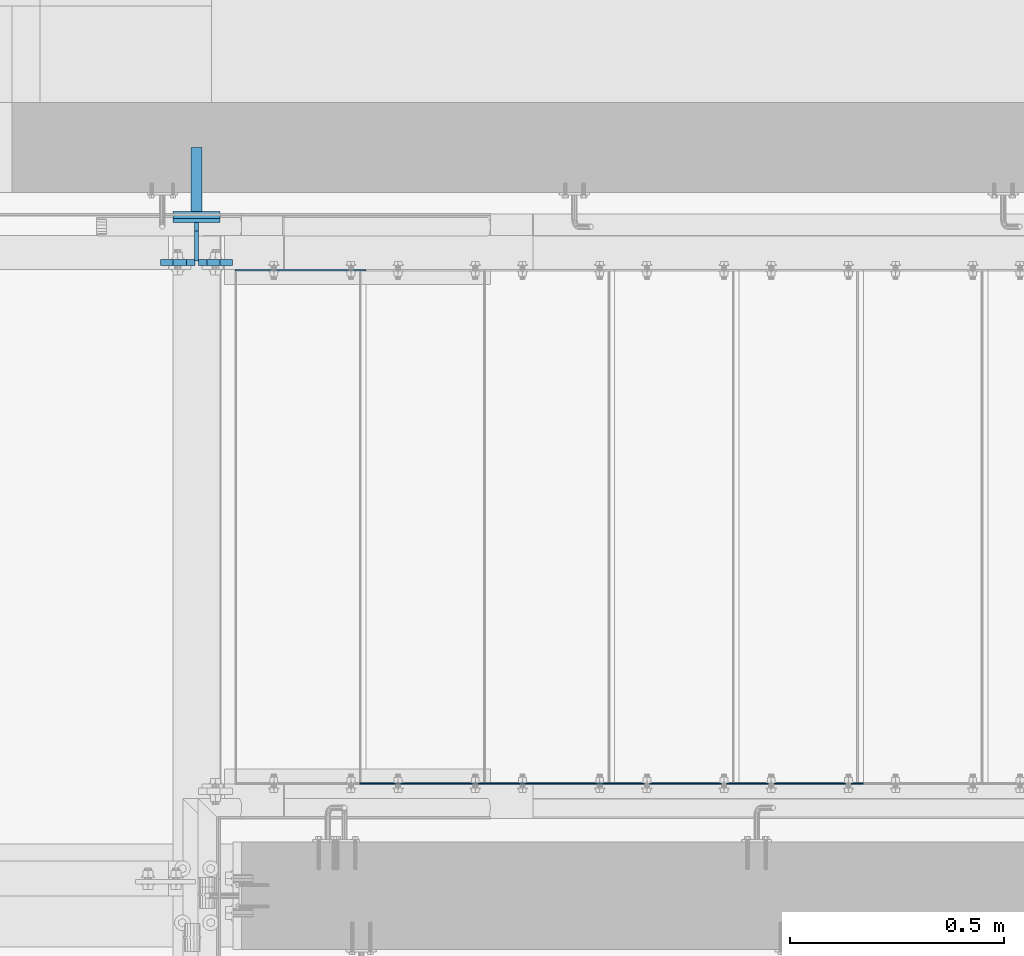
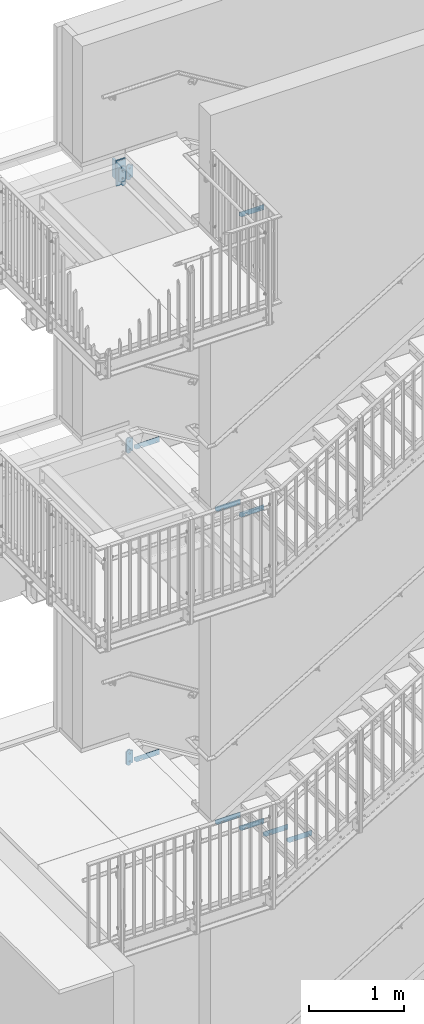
# One storey, part 57 of 410: 16 plates, 45 openings.
"""IFC2X3 building model written with IfcOpenShell, lengths in millimetres."""

import ifcopenshell
import ifcopenshell.guid

model = None  # the IFC model being written
_history = None  # IfcOwnerHistory: only IFC2X3 demands one
_inside = {}  # id of a spatial element -> (the spatial element, [elements in it])
_under = {}  # id of a project, library or spatial element -> (it, [spatial elements below it])
_declared = {}  # id of a project -> (the project, [libraries it declares])
_typed = {}  # id of a type object -> (the type object, [elements of that type])
_made_of = {}  # id of a material, layer set ... -> (it, [elements and type objects made of it])


def new_model(schema):
    """Start an empty IFC model of exactly this schema.

    Asked for "IFC4X3", IfcOpenShell would pick the latest addendum, in which some entities
    have other attributes; the version numbers below select the first issue.
    IFC2X3 requires an IfcOwnerHistory on every rooted entity: one is made here for all.
    """
    global model, _history
    if schema == "IFC4X3":
        model = ifcopenshell.file(schema_version=(4, 3, 0, 0))
    else:
        model = ifcopenshell.file(schema=schema)
    _inside.clear()
    _under.clear()
    _declared.clear()
    _typed.clear()
    _made_of.clear()
    _history = None
    if model.schema == "IFC2X3":
        org = make("IfcOrganization", Name="unknown")
        user = make(
            "IfcPersonAndOrganization",
            ThePerson=make("IfcPerson", FamilyName="unknown"),
            TheOrganization=org,
        )
        app = make(
            "IfcApplication",
            ApplicationDeveloper=org,
            Version="unknown",
            ApplicationFullName="unknown",
            ApplicationIdentifier="unknown",
        )
        _history = make(
            "IfcOwnerHistory",
            OwningUser=user,
            OwningApplication=app,
            ChangeAction="ADDED",
            CreationDate=0,
        )
    return model


def make(cls, **values):
    """One entity of the class cls with the attributes given. An attribute that is None is left unset."""
    return model.create_entity(
        cls, **{name: value for name, value in values.items() if value is not None}
    )


def entity(cls, *values):
    """Any entity or typed value of the class cls, its attributes in the order of the schema. None: left unset."""
    e = model.create_entity(cls)
    for i, value in enumerate(values):
        if value is not None:
            e[i] = value
    return e


def rooted(cls, **values):
    """An entity with a GlobalId (a new one), such as an element, a storey or a relation."""
    return make(cls, GlobalId=ifcopenshell.guid.new(), OwnerHistory=_history, **values)


def si_unit(unit_type, name, prefix=None):
    """IfcSIUnit, for example si_unit("LENGTHUNIT", "METRE", prefix="MILLI")."""
    return make("IfcSIUnit", UnitType=unit_type, Prefix=prefix, Name=name)


def converted_unit(unit_type, name, factor, base, dimensions=None, offset=None):
    """IfcConversionBasedUnit, such as the inch: factor (a typed value) times the base unit."""
    return make(
        "IfcConversionBasedUnit"
        if offset is None
        else "IfcConversionBasedUnitWithOffset",
        ConversionOffset=offset,
        Dimensions=None
        if dimensions is None
        else entity("IfcDimensionalExponents", *dimensions),
        UnitType=unit_type,
        Name=name,
        ConversionFactor=make(
            "IfcMeasureWithUnit", ValueComponent=factor, UnitComponent=base
        ),
    )


def assignment(units):
    """IfcUnitAssignment: the units of a project."""
    return None if units is None else make("IfcUnitAssignment", Units=units)


def point(xyz):
    """IfcCartesianPoint."""
    return None if xyz is None else make("IfcCartesianPoint", Coordinates=xyz)


def direction(xyz):
    """IfcDirection."""
    return None if xyz is None else make("IfcDirection", DirectionRatios=xyz)


def frame(location, z_axis=None, x_axis=None):
    """IfcAxis2Placement3D, a coordinate frame: its origin and axes. An axis left out is left unset."""
    return make(
        "IfcAxis2Placement3D",
        Location=point(location),
        Axis=direction(z_axis),
        RefDirection=direction(x_axis),
    )


def frame_2d(location, x_axis=None):
    """IfcAxis2Placement2D, a coordinate frame in the plane: its origin and x axis."""
    return make(
        "IfcAxis2Placement2D", Location=point(location), RefDirection=direction(x_axis)
    )


def origin():
    """The frame at (0, 0, 0) with its axes left unset."""
    return frame((0.0, 0.0, 0.0))


def origin_with_axes():
    """The frame at (0, 0, 0) with the z axis (0, 0, 1) and the x axis (1, 0, 0) written out."""
    return frame((0.0, 0.0, 0.0), z_axis=(0.0, 0.0, 1.0), x_axis=(1.0, 0.0, 0.0))


def origin_2d_with_axis():
    """The frame at (0, 0) in the plane with the x axis (1, 0) written out."""
    return frame_2d((0.0, 0.0), x_axis=(1.0, 0.0))


def place(relative_to, where):
    """IfcLocalPlacement: puts the frame where relative to a parent placement (None: the world)."""
    return make(
        "IfcLocalPlacement", PlacementRelTo=relative_to, RelativePlacement=where
    )


def context(
    kind, dimensions, precision=None, world=None, true_north=None, identifier=None
):
    """IfcGeometricRepresentationContext, for example the 3D "Model" context."""
    return make(
        "IfcGeometricRepresentationContext",
        ContextIdentifier=identifier,
        ContextType=kind,
        CoordinateSpaceDimension=dimensions,
        Precision=precision,
        WorldCoordinateSystem=world,
        TrueNorth=true_north,
    )


def project(units=None, contexts=None):
    """IfcProject with its units and contexts."""
    return rooted(
        "IfcProject",
        Name="project",
        RepresentationContexts=contexts,
        UnitsInContext=assignment(units),
    )


def spatial(cls, under=None, at=None, **own):
    """A site, building, storey or space (cls), placed at a placement, below another one or the project."""
    s = rooted(cls, ObjectPlacement=at, **own)
    if under is not None:
        _under.setdefault(under.id(), (under, []))[1].append(s)
    return s


def polyline(points):
    """IfcPolyline through the points."""
    return make("IfcPolyline", Points=[point(p) for p in points])


def circle_curve(where, radius):
    """IfcCircle in the frame where."""
    return make("IfcCircle", Position=where, Radius=radius)


def line_curve(start, along, magnitude):
    """IfcLine from a point along a vector."""
    return make(
        "IfcLine",
        Pnt=point(start),
        Dir=make("IfcVector", Orientation=direction(along), Magnitude=magnitude),
    )


def trimmed(basis, trim1, trim2, sense, master):
    """IfcTrimmedCurve: the piece of a basis curve between two trims."""
    return make(
        "IfcTrimmedCurve",
        BasisCurve=basis,
        Trim1=trim1,
        Trim2=trim2,
        SenseAgreement=sense,
        MasterRepresentation=master,
    )


def segment(curve, same_sense, transition):
    """IfcCompositeCurveSegment."""
    return make(
        "IfcCompositeCurveSegment",
        Transition=transition,
        SameSense=same_sense,
        ParentCurve=curve,
    )


def composite_curve(segments, self_intersect=None):
    """IfcCompositeCurve: segments joined end to end."""
    return make("IfcCompositeCurve", Segments=segments, SelfIntersect=self_intersect)


def profile(cls, at=None, kind="AREA", **sizes):
    """A parametric profile (cls). Its sizes go by their IFC names, for example OverallWidth=200.0."""
    return make(cls, ProfileType=kind, Position=at, **sizes)


def circle(**sizes):
    """IfcCircleProfileDef."""
    return profile("IfcCircleProfileDef", **sizes)


def outline(outer, holes=None, kind="AREA"):
    """IfcArbitraryClosedProfileDef: a profile drawn as a closed curve; with holes, ...WithVoids."""
    if holes is None:
        return make("IfcArbitraryClosedProfileDef", ProfileType=kind, OuterCurve=outer)
    return make(
        "IfcArbitraryProfileDefWithVoids",
        ProfileType=kind,
        OuterCurve=outer,
        InnerCurves=holes,
    )


def extrude(swept, where, along, depth):
    """IfcExtrudedAreaSolid: the profile swept, set in the frame where, extruded along a direction by depth."""
    return make(
        "IfcExtrudedAreaSolid",
        SweptArea=swept,
        Position=where,
        ExtrudedDirection=direction(along),
        Depth=depth,
    )


def shape(context_of_items, identifier, shape_type, items):
    """IfcShapeRepresentation: the items that make up one representation, for example the "Body"."""
    return make(
        "IfcShapeRepresentation",
        ContextOfItems=context_of_items,
        RepresentationIdentifier=identifier,
        RepresentationType=shape_type,
        Items=items,
    )


def material(Name=None, Category=None):
    """IfcMaterial."""
    return make("IfcMaterial", Name=Name, Category=Category)


def layer(
    of_material, thickness, ventilated=None, Name=None, Category=None, Priority=None
):
    """IfcMaterialLayer: one layer of a wall or slab, of a material (None: an air gap)."""
    return make(
        "IfcMaterialLayer",
        Material=of_material,
        LayerThickness=thickness,
        IsVentilated=ventilated,
        Name=Name,
        Category=Category,
        Priority=Priority,
    )


def layer_set(layers, Name=None):
    """IfcMaterialLayerSet."""
    return make("IfcMaterialLayerSet", MaterialLayers=layers, LayerSetName=Name)


def made_of(thing, what):
    """Note that an element or type object is made of a material, layer set ...; save() writes the relation."""
    if what is not None:
        _made_of.setdefault(what.id(), (what, []))[1].append(thing)
    return thing


def element(
    cls,
    number,
    at=None,
    inside=None,
    cuts=None,
    type_object=None,
    material=None,
    context=None,
    identifier="Body",
    shape_type=None,
    held_by="IfcProductDefinitionShape",
    body=None,
    shapes=None,
    **own,
):
    """One element of the class cls, such as IfcWall. Its Tag is "e" and its number.

    at: its placement. inside: the storey or other place that contains it. cuts: it is an
    opening in that element (IfcRelVoidsElement). A single representation is given by context,
    identifier, shape_type and body (its items); several are given by shapes. held_by: the class
    of the entity that holds the representations. save() writes the other relations.
    """
    e = rooted(cls, Tag="e%d" % number, ObjectPlacement=at, **own)
    if body is not None:
        shapes = [shape(context, identifier, shape_type, body)]
    if shapes is not None:
        e.Representation = make(held_by, Representations=shapes)
    if inside is not None:
        _inside.setdefault(inside.id(), (inside, []))[1].append(e)
    if cuts is not None:
        rooted(
            "IfcRelVoidsElement", RelatingBuildingElement=cuts, RelatedOpeningElement=e
        )
    if type_object is not None:
        _typed.setdefault(type_object.id(), (type_object, []))[1].append(e)
    return made_of(e, material)


def aggregate(whole, parts):
    """IfcRelAggregates: a whole, such as a stair, and the parts it consists of."""
    return rooted("IfcRelAggregates", RelatingObject=whole, RelatedObjects=parts)


def save(model, path):
    """Write the relations noted so far, then the file.

    IfcRelAggregates (storeys below a building ...), IfcRelContainedInSpatialStructure (elements
    in a storey), IfcRelDefinesByType, IfcRelAssociatesMaterial and IfcRelDeclares: one each for
    every whole, place, type object, material and project.
    """
    for whole, parts in _under.values():
        aggregate(whole, parts)
    for where, things in _inside.values():
        rooted(
            "IfcRelContainedInSpatialStructure",
            RelatedElements=things,
            RelatingStructure=where,
        )
    for kind, things in _typed.values():
        rooted("IfcRelDefinesByType", RelatedObjects=things, RelatingType=kind)
    for what, things in _made_of.values():
        rooted("IfcRelAssociatesMaterial", RelatedObjects=things, RelatingMaterial=what)
    for by, libraries in _declared.values():
        rooted("IfcRelDeclares", RelatingContext=by, RelatedDefinitions=libraries)
    model.write(path)


model = new_model("IFC2X3")

# Units and contexts
model_context = context("Model", 3, precision=1e-09, world=origin_with_axes())
ifc_project = project(units=[si_unit("LENGTHUNIT", "METRE", prefix="MILLI"), si_unit("AREAUNIT", "SQUARE_METRE"), si_unit("VOLUMEUNIT", "CUBIC_METRE"), converted_unit("PLANEANGLEUNIT", "DEGREE", entity("IfcPlaneAngleMeasure", 0.01745329), si_unit("PLANEANGLEUNIT", "RADIAN"), dimensions=[0, 0, 0, 0, 0, 0, 0])], contexts=[model_context])

# Site, building, storey
site_placement = place(None, origin_with_axes())
site = spatial("IfcSite", under=ifc_project, at=site_placement, Name="mKR Teilneubau & Sanierung BA1 - Ostfildern", CompositionType="ELEMENT")
building_placement = place(site_placement, origin_with_axes())
building = spatial("IfcBuilding", under=site, at=building_placement, Name="Struktur 1", CompositionType="ELEMENT")
storey_placement = place(building_placement, origin_with_axes())
storey = spatial("IfcBuildingStorey", under=building, at=storey_placement, Name="Default Storey", CompositionType="ELEMENT", Elevation=0.0)

# Plate, openings
ifc_material = material(Name="S235JR")
ifc_layer_1 = layer(ifc_material, 3.0)
ifc_layer_set_1 = layer_set([ifc_layer_1], Name="S235JR")
plate_1_placement = place(None, frame((-835.0, 17239.999999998, 3478.26087), z_axis=(0.0, 1.0, 0.0), x_axis=(0.0, 0.0, -1.0)))
plate_1 = element("IfcPlate", 1, at=plate_1_placement, inside=storey, material=ifc_layer_set_1, Name="Grate_Step#2", ObjectType="Grate_Step#2", context=model_context, shape_type="SweptSolid", body=[
    extrude(outline(polyline([(0.0, 0.0), (70.0, 0.0), (70.0, 275.0), (40.0, 305.0), (0.0, 305.0), (0.0, 0.0)])), origin_with_axes(), (0.0, 0.0, 1.0), 3.0),
])
opening_1_placement = place(plate_1_placement, frame((55.0, 215.0, 3.5), z_axis=(0.0, 0.0, -1.0), x_axis=(0.0, 1.0, 0.0)))
element("IfcOpeningElement", 2, at=opening_1_placement, cuts=plate_1, ObjectType="Opening", context=model_context, shape_type="SweptSolid", body=[
    extrude(outline(composite_curve([segment(trimmed(line_curve((-9.5, -7.001), (1.0, 0.0), 19.0), [point((-9.5, -7.001))], [point((9.5, -7.001))], True, "CARTESIAN"), True, "CONTINUOUS"), segment(trimmed(circle_curve(frame_2d((9.5, 0.0), x_axis=(1.0, 0.0)), 7.001), [point((9.5, -7.001))], [point((9.5, 7.001))], True, "CARTESIAN"), True, "CONTINUOUS"), segment(trimmed(line_curve((9.5, 7.001), (-1.0, 0.0), 19.0), [point((9.5, 7.001))], [point((-9.5, 7.001))], True, "CARTESIAN"), True, "CONTINUOUS"), segment(trimmed(circle_curve(frame_2d((-9.5, 0.0), x_axis=(1.0, 0.0)), 7.001), [point((-9.5, 7.001))], [point((-9.5, -7.001))], True, "CARTESIAN"), True, "CONTINUOUS")], self_intersect=False)), origin(), (0.0, 0.0, 1.0), 4.0),
])
opening_2_placement = place(plate_1_placement, frame((55.0, 35.0, 3.5), z_axis=(0.0, 0.0, -1.0), x_axis=(0.0, 1.0, 0.0)))
element("IfcOpeningElement", 3, at=opening_2_placement, cuts=plate_1, ObjectType="Opening", context=model_context, shape_type="SweptSolid", body=[
    extrude(circle(Radius=7.001, at=origin_2d_with_axis()), origin(), (0.0, 0.0, 1.0), 4.0),
])

plate_2_placement = place(None, frame((-1125.0, 17239.999999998, 3652.1739135), z_axis=(0.0, 1.0, 0.0), x_axis=(0.0, 0.0, -1.0)))
plate_2 = element("IfcPlate", 4, at=plate_2_placement, inside=storey, material=ifc_layer_set_1, Name="Grate_Step#2", ObjectType="Grate_Step#2", context=model_context, shape_type="SweptSolid", body=[
    extrude(outline(polyline([(0.0, 0.0), (70.0, 0.0), (70.0, 275.0), (40.0, 305.0), (0.0, 305.0), (0.0, 0.0)])), origin_with_axes(), (0.0, 0.0, 1.0), 3.0),
])
opening_3_placement = place(plate_2_placement, frame((55.0, 215.0, 3.5), z_axis=(0.0, 0.0, -1.0), x_axis=(0.0, 1.0, 0.0)))
element("IfcOpeningElement", 5, at=opening_3_placement, cuts=plate_2, ObjectType="Opening", context=model_context, shape_type="SweptSolid", body=[
    extrude(outline(composite_curve([segment(trimmed(line_curve((-9.5, -7.001), (1.0, 0.0), 19.0), [point((-9.5, -7.001))], [point((9.5, -7.001))], True, "CARTESIAN"), True, "CONTINUOUS"), segment(trimmed(circle_curve(frame_2d((9.5, 0.0), x_axis=(1.0, 0.0)), 7.001), [point((9.5, -7.001))], [point((9.5, 7.001))], True, "CARTESIAN"), True, "CONTINUOUS"), segment(trimmed(line_curve((9.5, 7.001), (-1.0, 0.0), 19.0), [point((9.5, 7.001))], [point((-9.5, 7.001))], True, "CARTESIAN"), True, "CONTINUOUS"), segment(trimmed(circle_curve(frame_2d((-9.5, 0.0), x_axis=(1.0, 0.0)), 7.001), [point((-9.5, 7.001))], [point((-9.5, -7.001))], True, "CARTESIAN"), True, "CONTINUOUS")], self_intersect=False)), origin(), (0.0, 0.0, 1.0), 4.0),
])
opening_4_placement = place(plate_2_placement, frame((55.0, 35.0, 3.5), z_axis=(0.0, 0.0, -1.0), x_axis=(0.0, 1.0, 0.0)))
element("IfcOpeningElement", 6, at=opening_4_placement, cuts=plate_2, ObjectType="Opening", context=model_context, shape_type="SweptSolid", body=[
    extrude(circle(Radius=7.001, at=origin_2d_with_axis()), origin(), (0.0, 0.0, 1.0), 4.0),
])

plate_3_placement = place(None, frame((-1415.0, 18436.999999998, 3826.086957), z_axis=(0.0, 1.0, 0.0), x_axis=(0.0, 0.0, -1.0)))
plate_3 = element("IfcPlate", 7, at=plate_3_placement, inside=storey, material=ifc_layer_set_1, Name="Grate_Step#3", ObjectType="Grate_Step#3", context=model_context, shape_type="SweptSolid", body=[
    extrude(outline(polyline([(0.0, 0.0), (70.0, 0.0), (70.0, 275.0), (40.0, 305.0), (0.0, 305.0), (0.0, 0.0)])), origin_with_axes(), (0.0, 0.0, 1.0), 3.0),
])
opening_5_placement = place(plate_3_placement, frame((55.0, 215.0, -0.5), z_axis=(0.0, 0.0, 1.0), x_axis=(0.0, 1.0, 0.0)))
element("IfcOpeningElement", 8, at=opening_5_placement, cuts=plate_3, ObjectType="Opening", context=model_context, shape_type="SweptSolid", body=[
    extrude(outline(composite_curve([segment(trimmed(line_curve((-9.5, -7.001), (1.0, 0.0), 19.0), [point((-9.5, -7.001))], [point((9.5, -7.001))], True, "CARTESIAN"), True, "CONTINUOUS"), segment(trimmed(circle_curve(frame_2d((9.5, 0.0), x_axis=(1.0, 0.0)), 7.001), [point((9.5, -7.001))], [point((9.5, 7.001))], True, "CARTESIAN"), True, "CONTINUOUS"), segment(trimmed(line_curve((9.5, 7.001), (-1.0, 0.0), 19.0), [point((9.5, 7.001))], [point((-9.5, 7.001))], True, "CARTESIAN"), True, "CONTINUOUS"), segment(trimmed(circle_curve(frame_2d((-9.5, 0.0), x_axis=(1.0, 0.0)), 7.001), [point((-9.5, 7.001))], [point((-9.5, -7.001))], True, "CARTESIAN"), True, "CONTINUOUS")], self_intersect=False)), origin(), (0.0, 0.0, 1.0), 4.0),
])
opening_6_placement = place(plate_3_placement, frame((55.0, 35.0, -0.5), z_axis=(0.0, 0.0, 1.0), x_axis=(0.0, 1.0, 0.0)))
element("IfcOpeningElement", 9, at=opening_6_placement, cuts=plate_3, ObjectType="Opening", context=model_context, shape_type="SweptSolid", body=[
    extrude(circle(Radius=7.001, at=origin_2d_with_axis()), origin(), (0.0, 0.0, 1.0), 4.0),
])

plate_4_placement = place(None, frame((-255.0, 17239.999999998, -894.0), z_axis=(0.0, 1.0, 0.0), x_axis=(0.0, 0.0, -1.0)))
plate_4 = element("IfcPlate", 10, at=plate_4_placement, inside=storey, material=ifc_layer_set_1, Name="Grate_Step#2", ObjectType="Grate_Step#2", context=model_context, shape_type="SweptSolid", body=[
    extrude(outline(polyline([(0.0, 0.0), (70.0, 0.0), (70.0, 275.0), (40.0, 305.0), (0.0, 305.0), (0.0, 0.0)])), origin_with_axes(), (0.0, 0.0, 1.0), 3.0),
])
opening_7_placement = place(plate_4_placement, frame((55.0, 35.0, 3.5), z_axis=(0.0, 0.0, -1.0), x_axis=(0.0, 1.0, 0.0)))
element("IfcOpeningElement", 11, at=opening_7_placement, cuts=plate_4, ObjectType="Opening", context=model_context, shape_type="SweptSolid", body=[
    extrude(circle(Radius=7.001, at=origin_2d_with_axis()), origin(), (0.0, 0.0, 1.0), 4.0),
])
opening_8_placement = place(plate_4_placement, frame((55.0, 215.0, 3.5), z_axis=(0.0, 0.0, -1.0), x_axis=(0.0, 1.0, 0.0)))
element("IfcOpeningElement", 12, at=opening_8_placement, cuts=plate_4, ObjectType="Opening", context=model_context, shape_type="SweptSolid", body=[
    extrude(outline(composite_curve([segment(trimmed(line_curve((-9.5, -7.001), (1.0, 0.0), 19.0), [point((-9.5, -7.001))], [point((9.5, -7.001))], True, "CARTESIAN"), True, "CONTINUOUS"), segment(trimmed(circle_curve(frame_2d((9.5, 0.0), x_axis=(1.0, 0.0)), 7.001), [point((9.5, -7.001))], [point((9.5, 7.001))], True, "CARTESIAN"), True, "CONTINUOUS"), segment(trimmed(line_curve((9.5, 7.001), (-1.0, 0.0), 19.0), [point((9.5, 7.001))], [point((-9.5, 7.001))], True, "CARTESIAN"), True, "CONTINUOUS"), segment(trimmed(circle_curve(frame_2d((-9.5, 0.0), x_axis=(1.0, 0.0)), 7.001), [point((-9.5, 7.001))], [point((-9.5, -7.001))], True, "CARTESIAN"), True, "CONTINUOUS")], self_intersect=False)), origin(), (0.0, 0.0, 1.0), 4.0),
])

plate_5_placement = place(None, frame((-545.0, 17239.999999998, -715.2), z_axis=(0.0, 1.0, 0.0), x_axis=(0.0, 0.0, -1.0)))
plate_5 = element("IfcPlate", 13, at=plate_5_placement, inside=storey, material=ifc_layer_set_1, Name="Grate_Step#2", ObjectType="Grate_Step#2", context=model_context, shape_type="SweptSolid", body=[
    extrude(outline(polyline([(0.0, 0.0), (70.0, 0.0), (70.0, 275.0), (40.0, 305.0), (0.0, 305.0), (0.0, 0.0)])), origin_with_axes(), (0.0, 0.0, 1.0), 3.0),
])
opening_9_placement = place(plate_5_placement, frame((55.0, 35.0, 3.5), z_axis=(0.0, 0.0, -1.0), x_axis=(0.0, 1.0, 0.0)))
element("IfcOpeningElement", 14, at=opening_9_placement, cuts=plate_5, ObjectType="Opening", context=model_context, shape_type="SweptSolid", body=[
    extrude(circle(Radius=7.001, at=origin_2d_with_axis()), origin(), (0.0, 0.0, 1.0), 4.0),
])
opening_10_placement = place(plate_5_placement, frame((55.0, 215.0, 3.5), z_axis=(0.0, 0.0, -1.0), x_axis=(0.0, 1.0, 0.0)))
element("IfcOpeningElement", 15, at=opening_10_placement, cuts=plate_5, ObjectType="Opening", context=model_context, shape_type="SweptSolid", body=[
    extrude(outline(composite_curve([segment(trimmed(line_curve((-9.5, -7.001), (1.0, 0.0), 19.0), [point((-9.5, -7.001))], [point((9.5, -7.001))], True, "CARTESIAN"), True, "CONTINUOUS"), segment(trimmed(circle_curve(frame_2d((9.5, 0.0), x_axis=(1.0, 0.0)), 7.001), [point((9.5, -7.001))], [point((9.5, 7.001))], True, "CARTESIAN"), True, "CONTINUOUS"), segment(trimmed(line_curve((9.5, 7.001), (-1.0, 0.0), 19.0), [point((9.5, 7.001))], [point((-9.5, 7.001))], True, "CARTESIAN"), True, "CONTINUOUS"), segment(trimmed(circle_curve(frame_2d((-9.5, 0.0), x_axis=(1.0, 0.0)), 7.001), [point((-9.5, 7.001))], [point((-9.5, -7.001))], True, "CARTESIAN"), True, "CONTINUOUS")], self_intersect=False)), origin(), (0.0, 0.0, 1.0), 4.0),
])

plate_6_placement = place(None, frame((-835.0, 17239.999999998, -536.4), z_axis=(0.0, 1.0, 0.0), x_axis=(0.0, 0.0, -1.0)))
plate_6 = element("IfcPlate", 16, at=plate_6_placement, inside=storey, material=ifc_layer_set_1, Name="Grate_Step#2", ObjectType="Grate_Step#2", context=model_context, shape_type="SweptSolid", body=[
    extrude(outline(polyline([(0.0, 0.0), (70.0, 0.0), (70.0, 275.0), (40.0, 305.0), (0.0, 305.0), (0.0, 0.0)])), origin_with_axes(), (0.0, 0.0, 1.0), 3.0),
])
opening_11_placement = place(plate_6_placement, frame((55.0, 35.0, 3.5), z_axis=(0.0, 0.0, -1.0), x_axis=(0.0, 1.0, 0.0)))
element("IfcOpeningElement", 17, at=opening_11_placement, cuts=plate_6, ObjectType="Opening", context=model_context, shape_type="SweptSolid", body=[
    extrude(circle(Radius=7.001, at=origin_2d_with_axis()), origin(), (0.0, 0.0, 1.0), 4.0),
])
opening_12_placement = place(plate_6_placement, frame((55.0, 215.0, 3.5), z_axis=(0.0, 0.0, -1.0), x_axis=(0.0, 1.0, 0.0)))
element("IfcOpeningElement", 18, at=opening_12_placement, cuts=plate_6, ObjectType="Opening", context=model_context, shape_type="SweptSolid", body=[
    extrude(outline(composite_curve([segment(trimmed(line_curve((-9.5, -7.001), (1.0, 0.0), 19.0), [point((-9.5, -7.001))], [point((9.5, -7.001))], True, "CARTESIAN"), True, "CONTINUOUS"), segment(trimmed(circle_curve(frame_2d((9.5, 0.0), x_axis=(1.0, 0.0)), 7.001), [point((9.5, -7.001))], [point((9.5, 7.001))], True, "CARTESIAN"), True, "CONTINUOUS"), segment(trimmed(line_curve((9.5, 7.001), (-1.0, 0.0), 19.0), [point((9.5, 7.001))], [point((-9.5, 7.001))], True, "CARTESIAN"), True, "CONTINUOUS"), segment(trimmed(circle_curve(frame_2d((-9.5, 0.0), x_axis=(1.0, 0.0)), 7.001), [point((-9.5, 7.001))], [point((-9.5, -7.001))], True, "CARTESIAN"), True, "CONTINUOUS")], self_intersect=False)), origin(), (0.0, 0.0, 1.0), 4.0),
])

plate_7_placement = place(None, frame((-1125.0, 17239.999999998, -357.6), z_axis=(0.0, 1.0, 0.0), x_axis=(0.0, 0.0, -1.0)))
plate_7 = element("IfcPlate", 19, at=plate_7_placement, inside=storey, material=ifc_layer_set_1, Name="Grate_Step#2", ObjectType="Grate_Step#2", context=model_context, shape_type="SweptSolid", body=[
    extrude(outline(polyline([(0.0, 0.0), (70.0, 0.0), (70.0, 275.0), (40.0, 305.0), (0.0, 305.0), (0.0, 0.0)])), origin_with_axes(), (0.0, 0.0, 1.0), 3.0),
])
opening_13_placement = place(plate_7_placement, frame((55.0, 215.0, 3.5), z_axis=(0.0, 0.0, -1.0), x_axis=(0.0, 1.0, 0.0)))
element("IfcOpeningElement", 20, at=opening_13_placement, cuts=plate_7, ObjectType="Opening", context=model_context, shape_type="SweptSolid", body=[
    extrude(outline(composite_curve([segment(trimmed(line_curve((-9.5, -7.001), (1.0, 0.0), 19.0), [point((-9.5, -7.001))], [point((9.5, -7.001))], True, "CARTESIAN"), True, "CONTINUOUS"), segment(trimmed(circle_curve(frame_2d((9.5, 0.0), x_axis=(1.0, 0.0)), 7.001), [point((9.5, -7.001))], [point((9.5, 7.001))], True, "CARTESIAN"), True, "CONTINUOUS"), segment(trimmed(line_curve((9.5, 7.001), (-1.0, 0.0), 19.0), [point((9.5, 7.001))], [point((-9.5, 7.001))], True, "CARTESIAN"), True, "CONTINUOUS"), segment(trimmed(circle_curve(frame_2d((-9.5, 0.0), x_axis=(1.0, 0.0)), 7.001), [point((-9.5, 7.001))], [point((-9.5, -7.001))], True, "CARTESIAN"), True, "CONTINUOUS")], self_intersect=False)), origin(), (0.0, 0.0, 1.0), 4.0),
])
opening_14_placement = place(plate_7_placement, frame((55.0, 35.0, 3.5), z_axis=(0.0, 0.0, -1.0), x_axis=(0.0, 1.0, 0.0)))
element("IfcOpeningElement", 21, at=opening_14_placement, cuts=plate_7, ObjectType="Opening", context=model_context, shape_type="SweptSolid", body=[
    extrude(circle(Radius=7.001, at=origin_2d_with_axis()), origin(), (0.0, 0.0, 1.0), 4.0),
])

plate_8_placement = place(None, frame((-1415.0, 18436.999999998, -178.8), z_axis=(0.0, 1.0, 0.0), x_axis=(0.0, 0.0, -1.0)))
plate_8 = element("IfcPlate", 22, at=plate_8_placement, inside=storey, material=ifc_layer_set_1, Name="Grate_Step#3", ObjectType="Grate_Step#3", context=model_context, shape_type="SweptSolid", body=[
    extrude(outline(polyline([(0.0, 0.0), (70.0, 0.0), (70.0, 275.0), (40.0, 305.0), (0.0, 305.0), (0.0, 0.0)])), origin_with_axes(), (0.0, 0.0, 1.0), 3.0),
])
opening_15_placement = place(plate_8_placement, frame((55.0, 215.0, -0.5), z_axis=(0.0, 0.0, 1.0), x_axis=(0.0, 1.0, 0.0)))
element("IfcOpeningElement", 23, at=opening_15_placement, cuts=plate_8, ObjectType="Opening", context=model_context, shape_type="SweptSolid", body=[
    extrude(outline(composite_curve([segment(trimmed(line_curve((-9.5, -7.001), (1.0, 0.0), 19.0), [point((-9.5, -7.001))], [point((9.5, -7.001))], True, "CARTESIAN"), True, "CONTINUOUS"), segment(trimmed(circle_curve(frame_2d((9.5, 0.0), x_axis=(1.0, 0.0)), 7.001), [point((9.5, -7.001))], [point((9.5, 7.001))], True, "CARTESIAN"), True, "CONTINUOUS"), segment(trimmed(line_curve((9.5, 7.001), (-1.0, 0.0), 19.0), [point((9.5, 7.001))], [point((-9.5, 7.001))], True, "CARTESIAN"), True, "CONTINUOUS"), segment(trimmed(circle_curve(frame_2d((-9.5, 0.0), x_axis=(1.0, 0.0)), 7.001), [point((-9.5, 7.001))], [point((-9.5, -7.001))], True, "CARTESIAN"), True, "CONTINUOUS")], self_intersect=False)), origin(), (0.0, 0.0, 1.0), 4.0),
])
opening_16_placement = place(plate_8_placement, frame((55.0, 35.0, -0.5), z_axis=(0.0, 0.0, 1.0), x_axis=(0.0, 1.0, 0.0)))
element("IfcOpeningElement", 24, at=opening_16_placement, cuts=plate_8, ObjectType="Opening", context=model_context, shape_type="SweptSolid", body=[
    extrude(circle(Radius=7.001, at=origin_2d_with_axis()), origin(), (0.0, 0.0, 1.0), 4.0),
])

# Plate, opening
ifc_layer_2 = layer(ifc_material, 25.0)
ifc_layer_set_2 = layer_set([ifc_layer_2], Name="S235JR")
plate_9_placement = place(None, frame((-1809.9985317, 18574.99935555, 7280.0), z_axis=(0.0, -1.0, 0.0), x_axis=(1.0, 0.0, 0.0)))
plate_9 = element("IfcPlate", 25, at=plate_9_placement, inside=storey, material=ifc_layer_set_2, Name="-", ObjectType="-", context=model_context, shape_type="SweptSolid", body=[
    extrude(outline(polyline([(-55.0, -160.0), (55.0, -160.0), (55.0, 160.0), (-55.0, 160.0), (-55.0, -160.0)])), origin_with_axes(), (0.0, 0.0, 1.0), 25.0),
])
opening_17_placement = place(plate_9_placement, frame((-55.001, 160.0, 25.0), z_axis=(1.0, 0.0, 0.0), x_axis=(0.0, -1.0, 0.0)))
element("IfcOpeningElement", 26, at=opening_17_placement, cuts=plate_9, ObjectType="Opening", context=model_context, shape_type="SweptSolid", body=[
    extrude(outline(polyline([(0.0, 0.0), (9.0, 0.0), (0.0, 9.0), (0.0, 0.0)])), origin(), (0.0, 0.0, 1.0), 110.022),
])

# Plate
plate_10_placement = place(None, frame((-1822.4985317, 18650.000177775, 7245.0), z_axis=(1.0, 0.0, 0.0), x_axis=(0.0, 1.0, 0.0)))
element("IfcPlate", 27, at=plate_10_placement, inside=storey, material=ifc_layer_set_2, Name="-", ObjectType="-", context=model_context, shape_type="SweptSolid", body=[
    extrude(outline(polyline([(-75.0, -115.0), (75.0, -115.0), (75.0, 115.0), (-75.0, 115.0), (-75.0, -115.0)])), origin_with_axes(), (0.0, 0.0, 1.0), 25.0),
])

# Plate, openings
ifc_layer_3 = layer(ifc_material, 10.0)
ifc_layer_set_3 = layer_set([ifc_layer_3], Name="S235JR")
plate_11_placement = place(None, frame((-1814.9985317, 18504.99935555, 7175.0), z_axis=(1.0, 0.0, 0.0), x_axis=(0.0, 1.0, 0.0)))
plate_11 = element("IfcPlate", 28, at=plate_11_placement, inside=storey, material=ifc_layer_set_3, Name="-", ObjectType="-", context=model_context, shape_type="SweptSolid", body=[
    extrude(outline(polyline([(-45.0, -45.0), (45.0, -45.0), (45.0, 45.0), (-45.0, 45.0), (-45.0, -45.0)])), origin_with_axes(), (0.0, 0.0, 1.0), 10.0),
])
opening_18_placement = place(plate_11_placement, frame((0.0, 0.0, -0.01), z_axis=(0.0, 0.0, 1.0), x_axis=(1.0, 0.0, 0.0)))
element("IfcOpeningElement", 29, at=opening_18_placement, cuts=plate_11, ObjectType="Opening", context=model_context, shape_type="SweptSolid", body=[
    extrude(outline(polyline([(-45.0, -45.0), (5.0, -45.0), (-45.0, 5.0), (-45.0, -45.0)])), origin(), (0.0, 0.0, 1.0), 10.02),
])
opening_19_placement = place(plate_11_placement, frame((0.0, 0.0, -0.01), z_axis=(0.0, 0.0, 1.0), x_axis=(1.0, 0.0, 0.0)))
element("IfcOpeningElement", 30, at=opening_19_placement, cuts=plate_11, ObjectType="Opening", context=model_context, shape_type="SweptSolid", body=[
    extrude(outline(polyline([(45.0, 45.0), (25.0, 45.0), (45.0, 25.0), (45.0, 45.0)])), origin(), (0.0, 0.0, 1.0), 10.02),
])

ifc_layer_4 = layer(ifc_material, 15.0)
ifc_layer_set_4 = layer_set([ifc_layer_4], Name="S235JR")
plate_12_placement = place(None, frame((-1806.0485317, 18448.999999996, 7429.300000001), z_axis=(0.0, 1.0, 0.0), x_axis=(1.0, 0.0, 0.0)))
plate_12 = element("IfcPlate", 31, at=plate_12_placement, inside=storey, material=ifc_layer_set_4, Name="LugPlate#1", ObjectType="LugPlate#1", context=model_context, shape_type="SweptSolid", body=[
    extrude(outline(polyline([(0.0, 0.0), (80.0, 0.0), (80.0, 198.6), (0.0, 198.6), (0.0, 0.0)])), origin_with_axes(), (0.0, 0.0, 1.0), 15.0),
])
opening_20_placement = place(plate_12_placement, frame((0.0, 0.0, -0.01), z_axis=(0.0, 0.0, 1.0), x_axis=(1.0, 0.0, 0.0)))
element("IfcOpeningElement", 32, at=opening_20_placement, cuts=plate_12, ObjectType="Opening", context=model_context, shape_type="SweptSolid", body=[
    extrude(outline(polyline([(0.0, 0.0), (20.0, 0.0), (0.0, 20.0), (0.0, 0.0)])), origin(), (0.0, 0.0, 1.0), 15.02),
])
opening_21_placement = place(plate_12_placement, frame((0.0, 0.0, -0.01), z_axis=(0.0, 0.0, 1.0), x_axis=(1.0, 0.0, 0.0)))
element("IfcOpeningElement", 33, at=opening_21_placement, cuts=plate_12, ObjectType="Opening", context=model_context, shape_type="SweptSolid", body=[
    extrude(outline(polyline([(0.0, 198.6), (0.0, 178.6), (20.0, 198.6), (0.0, 198.6)])), origin(), (0.0, 0.0, 1.0), 15.02),
])
opening_22_placement = place(plate_12_placement, frame((0.0, 0.0, 15.1), z_axis=(0.0, 0.0, -1.0), x_axis=(0.0, -1.0, 0.0)))
element("IfcOpeningElement", 34, at=opening_22_placement, cuts=plate_12, ObjectType="Opening", context=model_context, shape_type="SweptSolid", body=[
    extrude(outline(polyline([(-209.301, -99.857709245), (-179.299, -99.857709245), (-179.299, -51.049), (-209.301, -51.049), (-209.301, -99.857709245)])), origin(), (0.0, 0.0, 1.0), 15.2),
])
opening_23_placement = place(plate_12_placement, frame((0.0, 0.0, 15.1), z_axis=(0.0, 0.0, -1.0), x_axis=(0.0, -1.0, 0.0)))
element("IfcOpeningElement", 35, at=opening_23_placement, cuts=plate_12, ObjectType="Opening", context=model_context, shape_type="SweptSolid", body=[
    extrude(outline(polyline([(-19.301, -95.314579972), (10.700999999, -95.314579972), (10.700999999, -51.049), (-19.301, -51.049), (-19.301, -95.314579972)])), origin(), (0.0, 0.0, 1.0), 15.2),
])
opening_24_placement = place(plate_12_placement, frame((30.999, 149.300000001, 15.5), z_axis=(0.0, 0.0, 1.0), x_axis=(1.0, 0.0, 0.0)))
element("IfcOpeningElement", 36, at=opening_24_placement, cuts=plate_12, ObjectType="Opening", context=model_context, shape_type="SweptSolid", body=[
    extrude(circle(Radius=9.001, at=frame_2d((9.001, 0.0), x_axis=(1.0, 0.0))), origin(), (0.0, 0.0, -1.0), 16.0),
])
opening_25_placement = place(plate_12_placement, frame((30.999, 49.300000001, 15.5), z_axis=(0.0, 0.0, 1.0), x_axis=(1.0, 0.0, 0.0)))
element("IfcOpeningElement", 37, at=opening_25_placement, cuts=plate_12, ObjectType="Opening", context=model_context, shape_type="SweptSolid", body=[
    extrude(circle(Radius=9.001, at=frame_2d((9.001, 0.0), x_axis=(1.0, 0.0))), origin(), (0.0, 0.0, -1.0), 16.0),
])

plate_13_placement = place(None, frame((-1806.0485317, 18448.999999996, 3929.300000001), z_axis=(0.0, 1.0, 0.0), x_axis=(1.0, 0.0, 0.0)))
plate_13 = element("IfcPlate", 38, at=plate_13_placement, inside=storey, material=ifc_layer_set_4, Name="LugPlate#1", ObjectType="LugPlate#1", context=model_context, shape_type="SweptSolid", body=[
    extrude(outline(polyline([(0.0, 0.0), (80.0, 0.0), (80.0, 198.6), (0.0, 198.6), (0.0, 0.0)])), origin_with_axes(), (0.0, 0.0, 1.0), 15.0),
])
opening_26_placement = place(plate_13_placement, frame((0.0, 0.0, -0.01), z_axis=(0.0, 0.0, 1.0), x_axis=(1.0, 0.0, 0.0)))
element("IfcOpeningElement", 39, at=opening_26_placement, cuts=plate_13, ObjectType="Opening", context=model_context, shape_type="SweptSolid", body=[
    extrude(outline(polyline([(0.0, 0.0), (20.0, 0.0), (0.0, 20.0), (0.0, 0.0)])), origin(), (0.0, 0.0, 1.0), 15.02),
])
opening_27_placement = place(plate_13_placement, frame((0.0, 0.0, -0.01), z_axis=(0.0, 0.0, 1.0), x_axis=(1.0, 0.0, 0.0)))
element("IfcOpeningElement", 40, at=opening_27_placement, cuts=plate_13, ObjectType="Opening", context=model_context, shape_type="SweptSolid", body=[
    extrude(outline(polyline([(0.0, 198.6), (0.0, 178.6), (20.0, 198.6), (0.0, 198.6)])), origin(), (0.0, 0.0, 1.0), 15.02),
])
opening_28_placement = place(plate_13_placement, frame((0.0, 0.0, 15.1), z_axis=(0.0, 0.0, -1.0), x_axis=(0.0, -1.0, 0.0)))
element("IfcOpeningElement", 41, at=opening_28_placement, cuts=plate_13, ObjectType="Opening", context=model_context, shape_type="SweptSolid", body=[
    extrude(outline(polyline([(-209.301, -99.857709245), (-179.299, -99.857709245), (-179.299, -51.049), (-209.301, -51.049), (-209.301, -99.857709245)])), origin(), (0.0, 0.0, 1.0), 15.2),
])
opening_29_placement = place(plate_13_placement, frame((0.0, 0.0, 15.1), z_axis=(0.0, 0.0, -1.0), x_axis=(0.0, -1.0, 0.0)))
element("IfcOpeningElement", 42, at=opening_29_placement, cuts=plate_13, ObjectType="Opening", context=model_context, shape_type="SweptSolid", body=[
    extrude(outline(polyline([(-19.301, -95.314579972), (10.700999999, -95.314579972), (10.700999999, -51.049), (-19.301, -51.049), (-19.301, -95.314579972)])), origin(), (0.0, 0.0, 1.0), 15.2),
])
opening_30_placement = place(plate_13_placement, frame((30.999, 149.300000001, 15.5), z_axis=(0.0, 0.0, 1.0), x_axis=(1.0, 0.0, 0.0)))
element("IfcOpeningElement", 43, at=opening_30_placement, cuts=plate_13, ObjectType="Opening", context=model_context, shape_type="SweptSolid", body=[
    extrude(circle(Radius=9.001, at=frame_2d((9.001, 0.0), x_axis=(1.0, 0.0))), origin(), (0.0, 0.0, -1.0), 16.0),
])
opening_31_placement = place(plate_13_placement, frame((30.999, 49.300000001, 15.5), z_axis=(0.0, 0.0, 1.0), x_axis=(1.0, 0.0, 0.0)))
element("IfcOpeningElement", 44, at=opening_31_placement, cuts=plate_13, ObjectType="Opening", context=model_context, shape_type="SweptSolid", body=[
    extrude(circle(Radius=9.001, at=frame_2d((9.001, 0.0), x_axis=(1.0, 0.0))), origin(), (0.0, 0.0, -1.0), 16.0),
])

plate_14_placement = place(None, frame((-1806.0485317, 18448.999999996, -70.699999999), z_axis=(0.0, 1.0, 0.0), x_axis=(1.0, 0.0, 0.0)))
plate_14 = element("IfcPlate", 45, at=plate_14_placement, inside=storey, material=ifc_layer_set_4, Name="LugPlate#1", ObjectType="LugPlate#1", context=model_context, shape_type="SweptSolid", body=[
    extrude(outline(polyline([(0.0, 0.0), (80.0, 0.0), (80.0, 198.6), (0.0, 198.6), (0.0, 0.0)])), origin_with_axes(), (0.0, 0.0, 1.0), 15.0),
])
opening_32_placement = place(plate_14_placement, frame((0.0, 0.0, -0.01), z_axis=(0.0, 0.0, 1.0), x_axis=(1.0, 0.0, 0.0)))
element("IfcOpeningElement", 46, at=opening_32_placement, cuts=plate_14, ObjectType="Opening", context=model_context, shape_type="SweptSolid", body=[
    extrude(outline(polyline([(0.0, 0.0), (20.0, 0.0), (0.0, 20.0), (0.0, 0.0)])), origin(), (0.0, 0.0, 1.0), 15.02),
])
opening_33_placement = place(plate_14_placement, frame((0.0, 0.0, -0.01), z_axis=(0.0, 0.0, 1.0), x_axis=(1.0, 0.0, 0.0)))
element("IfcOpeningElement", 47, at=opening_33_placement, cuts=plate_14, ObjectType="Opening", context=model_context, shape_type="SweptSolid", body=[
    extrude(outline(polyline([(0.0, 198.6), (0.0, 178.6), (20.0, 198.6), (0.0, 198.6)])), origin(), (0.0, 0.0, 1.0), 15.02),
])
opening_34_placement = place(plate_14_placement, frame((0.0, 0.0, 15.1), z_axis=(0.0, 0.0, -1.0), x_axis=(0.0, -1.0, 0.0)))
element("IfcOpeningElement", 48, at=opening_34_placement, cuts=plate_14, ObjectType="Opening", context=model_context, shape_type="SweptSolid", body=[
    extrude(outline(polyline([(-209.301, -99.857709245), (-179.299, -99.857709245), (-179.299, -51.049), (-209.301, -51.049), (-209.301, -99.857709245)])), origin(), (0.0, 0.0, 1.0), 15.2),
])
opening_35_placement = place(plate_14_placement, frame((0.0, 0.0, 15.1), z_axis=(0.0, 0.0, -1.0), x_axis=(0.0, -1.0, 0.0)))
element("IfcOpeningElement", 49, at=opening_35_placement, cuts=plate_14, ObjectType="Opening", context=model_context, shape_type="SweptSolid", body=[
    extrude(outline(polyline([(-19.301, -95.314579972), (10.700999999, -95.314579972), (10.700999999, -51.049), (-19.301, -51.049), (-19.301, -95.314579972)])), origin(), (0.0, 0.0, 1.0), 15.2),
])
opening_36_placement = place(plate_14_placement, frame((30.999, 149.300000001, 15.5), z_axis=(0.0, 0.0, 1.0), x_axis=(1.0, 0.0, 0.0)))
element("IfcOpeningElement", 50, at=opening_36_placement, cuts=plate_14, ObjectType="Opening", context=model_context, shape_type="SweptSolid", body=[
    extrude(circle(Radius=9.001, at=frame_2d((9.001, 0.0), x_axis=(1.0, 0.0))), origin(), (0.0, 0.0, -1.0), 16.0),
])
opening_37_placement = place(plate_14_placement, frame((30.999, 49.300000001, 15.5), z_axis=(0.0, 0.0, 1.0), x_axis=(1.0, 0.0, 0.0)))
element("IfcOpeningElement", 51, at=opening_37_placement, cuts=plate_14, ObjectType="Opening", context=model_context, shape_type="SweptSolid", body=[
    extrude(circle(Radius=9.001, at=frame_2d((9.001, 0.0), x_axis=(1.0, 0.0))), origin(), (0.0, 0.0, -1.0), 16.0),
])

plate_15_placement = place(None, frame((-1813.9485317, 18448.999999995, 7429.300000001), z_axis=(0.0, -1.0, 0.0), x_axis=(-1.0, 0.0, 0.0)))
plate_15 = element("IfcPlate", 52, at=plate_15_placement, inside=storey, material=ifc_layer_set_4, Name="LugPlate#1", ObjectType="LugPlate#1", context=model_context, shape_type="SweptSolid", body=[
    extrude(outline(polyline([(0.0, 0.0), (80.0, 0.0), (80.0, 198.6), (0.0, 198.6), (0.0, 0.0)])), origin_with_axes(), (0.0, 0.0, -1.0), 15.0),
])
opening_38_placement = place(plate_15_placement, frame((0.0, 0.0, 0.01), z_axis=(0.0, 0.0, 1.0), x_axis=(1.0, 0.0, 0.0)))
element("IfcOpeningElement", 53, at=opening_38_placement, cuts=plate_15, ObjectType="Opening", context=model_context, shape_type="SweptSolid", body=[
    extrude(outline(polyline([(0.0, 0.0), (20.0, 0.0), (0.0, 20.0), (0.0, 0.0)])), origin(), (0.0, 0.0, -1.0), 15.02),
])
opening_39_placement = place(plate_15_placement, frame((0.0, 198.6, 0.01), z_axis=(0.0, 0.0, 1.0), x_axis=(0.0, -1.0, 0.0)))
element("IfcOpeningElement", 54, at=opening_39_placement, cuts=plate_15, ObjectType="Opening", context=model_context, shape_type="SweptSolid", body=[
    extrude(outline(polyline([(0.0, 0.0), (20.0, 0.0), (0.0, 20.0), (0.0, 0.0)])), origin(), (0.0, 0.0, -1.0), 15.02),
])
opening_40_placement = place(plate_15_placement, frame((99.857709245, 209.301, -15.1), z_axis=(0.0, 0.0, -1.0), x_axis=(0.0, -1.0, 0.0)))
element("IfcOpeningElement", 55, at=opening_40_placement, cuts=plate_15, ObjectType="Opening", context=model_context, shape_type="SweptSolid", body=[
    extrude(outline(polyline([(0.0, 0.0), (30.002, 0.0), (30.002, 48.808709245), (0.0, 48.808709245), (0.0, 0.0)])), origin(), (0.0, 0.0, -1.0), 15.2),
])
opening_41_placement = place(plate_15_placement, frame((95.314579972, 19.301, -15.1), z_axis=(0.0, 0.0, -1.0), x_axis=(0.0, -1.0, 0.0)))
element("IfcOpeningElement", 56, at=opening_41_placement, cuts=plate_15, ObjectType="Opening", context=model_context, shape_type="SweptSolid", body=[
    extrude(outline(polyline([(0.0, 0.0), (30.001999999, 0.0), (30.001999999, 44.265579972), (0.0, 44.265579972), (0.0, 0.0)])), origin(), (0.0, 0.0, -1.0), 15.2),
])
opening_42_placement = place(plate_15_placement, frame((40.0, 49.300000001, -15.5), z_axis=(0.0, 0.0, 1.0), x_axis=(1.0, 0.0, 0.0)))
element("IfcOpeningElement", 57, at=opening_42_placement, cuts=plate_15, ObjectType="Opening", context=model_context, shape_type="SweptSolid", body=[
    extrude(circle(Radius=9.001, at=frame_2d((0.0, 100.0), x_axis=(1.0, 0.0))), origin(), (0.0, 0.0, 1.0), 16.0),
])
opening_43_placement = place(plate_15_placement, frame((40.0, 49.300000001, -15.5), z_axis=(0.0, 0.0, 1.0), x_axis=(1.0, 0.0, 0.0)))
element("IfcOpeningElement", 58, at=opening_43_placement, cuts=plate_15, ObjectType="Opening", context=model_context, shape_type="SweptSolid", body=[
    extrude(circle(Radius=9.001, at=origin_2d_with_axis()), origin(), (0.0, 0.0, 1.0), 16.0),
])

plate_16_placement = place(None, frame((-835.0, 17239.999999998, 7325.0), z_axis=(0.0, 1.0, 0.0), x_axis=(0.0, 0.0, -1.0)))
plate_16 = element("IfcPlate", 59, at=plate_16_placement, inside=storey, material=ifc_layer_set_1, Name="Grate_Step#2", ObjectType="Grate_Step#2", context=model_context, shape_type="SweptSolid", body=[
    extrude(outline(polyline([(0.0, 0.0), (70.0, 0.0), (70.0, 275.0), (40.0, 305.0), (0.0, 305.0), (0.0, 0.0)])), origin_with_axes(), (0.0, 0.0, 1.0), 3.0),
])
opening_44_placement = place(plate_16_placement, frame((55.0, 215.0, 3.5), z_axis=(0.0, 0.0, -1.0), x_axis=(0.0, 1.0, 0.0)))
element("IfcOpeningElement", 60, at=opening_44_placement, cuts=plate_16, ObjectType="Opening", context=model_context, shape_type="SweptSolid", body=[
    extrude(outline(composite_curve([segment(trimmed(line_curve((-9.5, -7.001), (1.0, 0.0), 19.0), [point((-9.5, -7.001))], [point((9.5, -7.001))], True, "CARTESIAN"), True, "CONTINUOUS"), segment(trimmed(circle_curve(frame_2d((9.5, 0.0), x_axis=(1.0, 0.0)), 7.001), [point((9.5, -7.001))], [point((9.5, 7.001))], True, "CARTESIAN"), True, "CONTINUOUS"), segment(trimmed(line_curve((9.5, 7.001), (-1.0, 0.0), 19.0), [point((9.5, 7.001))], [point((-9.5, 7.001))], True, "CARTESIAN"), True, "CONTINUOUS"), segment(trimmed(circle_curve(frame_2d((-9.5, 0.0), x_axis=(1.0, 0.0)), 7.001), [point((-9.5, 7.001))], [point((-9.5, -7.001))], True, "CARTESIAN"), True, "CONTINUOUS")], self_intersect=False)), origin(), (0.0, 0.0, 1.0), 4.0),
])
opening_45_placement = place(plate_16_placement, frame((55.0, 35.0, 3.5), z_axis=(0.0, 0.0, -1.0), x_axis=(0.0, 1.0, 0.0)))
element("IfcOpeningElement", 61, at=opening_45_placement, cuts=plate_16, ObjectType="Opening", context=model_context, shape_type="SweptSolid", body=[
    extrude(circle(Radius=7.001, at=origin_2d_with_axis()), origin(), (0.0, 0.0, 1.0), 4.0),
])

save(model, "model.ifc")
